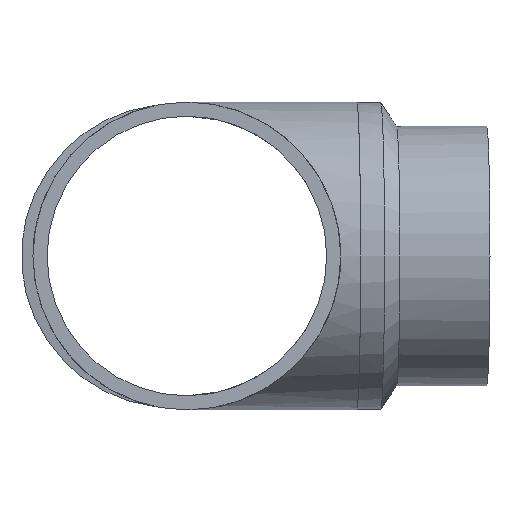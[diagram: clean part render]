
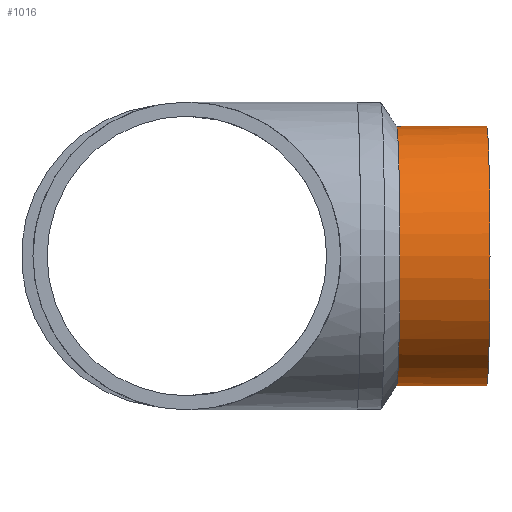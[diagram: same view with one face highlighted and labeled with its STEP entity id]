
A CAD part, front view. The second image highlights one B-rep face of the part: STEP entity #1016.
In plain terms, the highlighted cylindrical face has radius 67.725 mm (diameter 135.45 mm), a full revolution.
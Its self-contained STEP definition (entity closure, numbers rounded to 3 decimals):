
#81=FACE_BOUND($,#312,.T.);
#220=FACE_OUTER_BOUND($,#311,.T.);
#311=EDGE_LOOP($,(#930,#931));
#312=EDGE_LOOP($,(#932));
#361=CIRCLE($,#1128,67.725);
#362=CIRCLE($,#1129,67.725);
#366=CIRCLE($,#1136,67.725);
#521=VERTEX_POINT($,#2613);
#522=VERTEX_POINT($,#2614);
#526=VERTEX_POINT($,#2628);
#656=EDGE_CURVE($,#521,#522,#361,.T.);
#657=EDGE_CURVE($,#522,#521,#362,.T.);
#662=EDGE_CURVE($,#526,#526,#366,.T.);
#930=ORIENTED_EDGE($,*,*,#656,.T.);
#931=ORIENTED_EDGE($,*,*,#657,.T.);
#932=ORIENTED_EDGE($,*,*,#662,.T.);
#957=CYLINDRICAL_SURFACE($,#1135,67.725);
#1016=ADVANCED_FACE($,(#220,#81),#957,.T.);
#1128=AXIS2_PLACEMENT_3D($,#2615,#1379,#1380);
#1129=AXIS2_PLACEMENT_3D($,#2616,#1381,#1382);
#1135=AXIS2_PLACEMENT_3D($,#2627,#1393,#1394);
#1136=AXIS2_PLACEMENT_3D($,#2629,#1395,#1396);
#1379=DIRECTION('center_axis',(0.,0.,1.));
#1380=DIRECTION('ref_axis',(-1.,0.,0.));
#1381=DIRECTION('center_axis',(0.,0.,1.));
#1382=DIRECTION('ref_axis',(-1.,0.,0.));
#1393=DIRECTION('center_axis',(0.,0.,-1.));
#1394=DIRECTION('ref_axis',(-1.,0.,0.));
#1395=DIRECTION('center_axis',(0.,0.,-1.));
#1396=DIRECTION('ref_axis',(-1.,0.,0.));
#2613=CARTESIAN_POINT('',(79.138,0.,20.5));
#2614=CARTESIAN_POINT('',(46.159,58.132,20.5));
#2615=CARTESIAN_POINT('Origin',(11.413,0.,20.5));
#2616=CARTESIAN_POINT('Origin',(11.413,0.,20.5));
#2627=CARTESIAN_POINT('Origin',(11.413,0.,67.5));
#2628=CARTESIAN_POINT('',(79.138,0.,67.5));
#2629=CARTESIAN_POINT('Origin',(11.413,0.,67.5));
